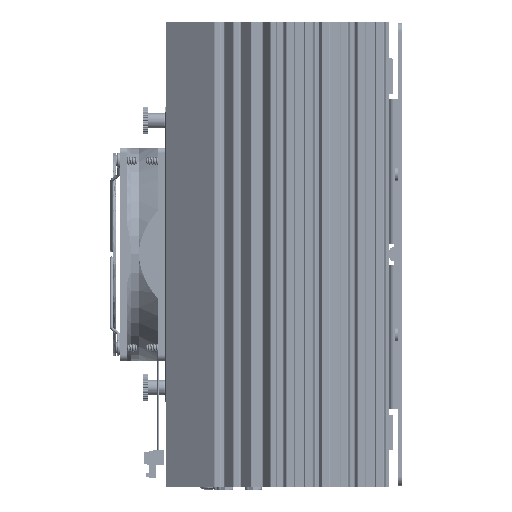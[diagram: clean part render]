
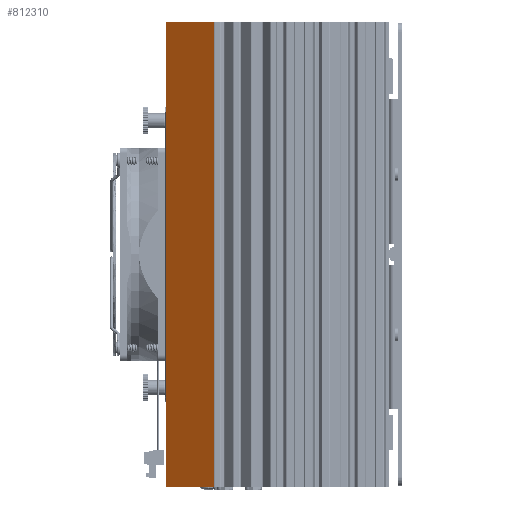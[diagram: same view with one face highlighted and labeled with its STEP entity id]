
A CAD part, left-side view. The second image highlights one B-rep face of the part: STEP entity #812310.
In plain terms, the highlighted planar face has unit normal (-0.819, 0.574, 0).
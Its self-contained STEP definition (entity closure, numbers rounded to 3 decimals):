
#18299 = ORIENTED_EDGE ( 'NONE', *, *, #518852, .T. ) ;
#24729 = LINE ( 'NONE', #561399, #194203 ) ;
#49139 = VERTEX_POINT ( 'NONE', #621281 ) ;
#68588 = CARTESIAN_POINT ( 'NONE',  ( -113.398, -7.532, -130.5 ) ) ;
#98252 = VECTOR ( 'NONE', #692654, 1000. ) ;
#102067 = VERTEX_POINT ( 'NONE', #68588 ) ;
#110878 = VECTOR ( 'NONE', #742545, 1000. ) ;
#112230 = CARTESIAN_POINT ( 'NONE',  ( -113.398, -7.532, 130.5 ) ) ;
#175526 = EDGE_CURVE ( 'NONE', #49139, #102067, #628783, .T. ) ;
#194203 = VECTOR ( 'NONE', #294318, 1000. ) ;
#284554 = VERTEX_POINT ( 'NONE', #858562 ) ;
#285190 = VERTEX_POINT ( 'NONE', #112230 ) ;
#289095 = DIRECTION ( 'NONE',  ( -0.574, -0.819, 0. ) ) ;
#294318 = DIRECTION ( 'NONE',  ( 0., 0., -1. ) ) ;
#361946 = PLANE ( 'NONE',  #379850 ) ;
#379850 = AXIS2_PLACEMENT_3D ( 'NONE', #836470, #566559, #501276 ) ;
#389277 = EDGE_LOOP ( 'NONE', ( #747341, #665985, #690188, #18299 ) ) ;
#407293 = CARTESIAN_POINT ( 'NONE',  ( -113.398, -7.532, 130.5 ) ) ;
#414069 = CARTESIAN_POINT ( 'NONE',  ( -94.26, 19.8, -130.5 ) ) ;
#422809 = FACE_OUTER_BOUND ( 'NONE', #389277, .T. ) ;
#501276 = DIRECTION ( 'NONE',  ( 0.574, 0.819, 0. ) ) ;
#518254 = VECTOR ( 'NONE', #289095, 1000. ) ;
#518852 = EDGE_CURVE ( 'NONE', #284554, #49139, #24729, .T. ) ;
#556991 = LINE ( 'NONE', #407293, #110878 ) ;
#561399 = CARTESIAN_POINT ( 'NONE',  ( -94.42, 19.571, 130.5 ) ) ;
#566559 = DIRECTION ( 'NONE',  ( 0.819, -0.574, 0. ) ) ;
#571009 = LINE ( 'NONE', #695595, #518254 ) ;
#621281 = CARTESIAN_POINT ( 'NONE',  ( -94.42, 19.571, -130.5 ) ) ;
#628783 = LINE ( 'NONE', #414069, #98252 ) ;
#640485 = EDGE_CURVE ( 'NONE', #102067, #285190, #556991, .T. ) ;
#665985 = ORIENTED_EDGE ( 'NONE', *, *, #640485, .T. ) ;
#690188 = ORIENTED_EDGE ( 'NONE', *, *, #773606, .F. ) ;
#692654 = DIRECTION ( 'NONE',  ( -0.574, -0.819, 0. ) ) ;
#695595 = CARTESIAN_POINT ( 'NONE',  ( -94.26, 19.8, 130.5 ) ) ;
#742545 = DIRECTION ( 'NONE',  ( 0., 0., 1. ) ) ;
#747341 = ORIENTED_EDGE ( 'NONE', *, *, #175526, .T. ) ;
#773606 = EDGE_CURVE ( 'NONE', #284554, #285190, #571009, .T. ) ;
#812310 = ADVANCED_FACE ( 'NONE', ( #422809 ), #361946, .F. ) ;
#836470 = CARTESIAN_POINT ( 'NONE',  ( -94.26, 19.8, 130.5 ) ) ;
#858562 = CARTESIAN_POINT ( 'NONE',  ( -94.42, 19.571, 130.5 ) ) ;
